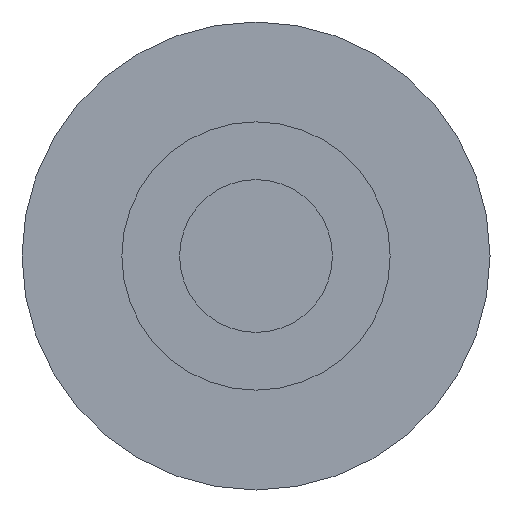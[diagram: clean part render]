
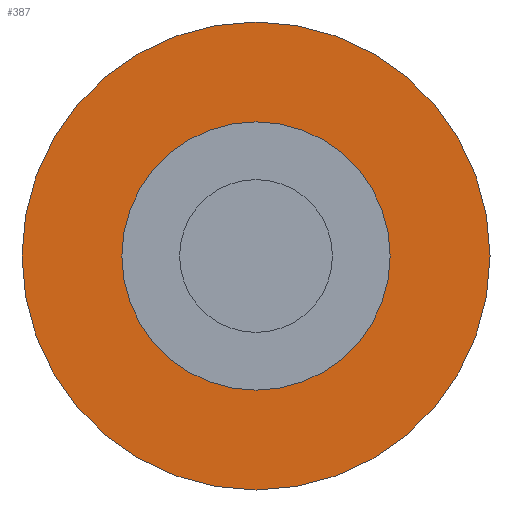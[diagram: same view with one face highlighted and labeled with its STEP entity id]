
A CAD part, front view. The second image highlights one B-rep face of the part: STEP entity #387.
In plain terms, the highlighted planar face has unit normal (0, -1, 0).
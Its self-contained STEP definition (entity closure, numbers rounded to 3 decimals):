
#1 = EDGE_LOOP ( 'NONE', ( #273, #251 ) ) ;
#2 = VERTEX_POINT ( 'NONE', #386 ) ;
#10 = DIRECTION ( 'NONE',  ( 0., -1., 0. ) ) ;
#11 = AXIS2_PLACEMENT_3D ( 'NONE', #325, #111, #27 ) ;
#23 = ORIENTED_EDGE ( 'NONE', *, *, #382, .F. ) ;
#27 = DIRECTION ( 'NONE',  ( 0., 0., 1. ) ) ;
#30 = DIRECTION ( 'NONE',  ( 0., 1., 0. ) ) ;
#46 = DIRECTION ( 'NONE',  ( 0., 0., 1. ) ) ;
#47 = AXIS2_PLACEMENT_3D ( 'NONE', #327, #30, #140 ) ;
#68 = AXIS2_PLACEMENT_3D ( 'NONE', #292, #130, #46 ) ;
#69 = DIRECTION ( 'NONE',  ( 0., 1., 0. ) ) ;
#76 = FACE_BOUND ( 'NONE', #1, .T. ) ;
#89 = EDGE_CURVE ( 'NONE', #2, #361, #204, .T. ) ;
#97 = ORIENTED_EDGE ( 'NONE', *, *, #153, .F. ) ;
#99 = CARTESIAN_POINT ( 'NONE',  ( -8.6, 0., 0. ) ) ;
#111 = DIRECTION ( 'NONE',  ( 0., 1., 0. ) ) ;
#112 = AXIS2_PLACEMENT_3D ( 'NONE', #182, #69, #121 ) ;
#117 = CARTESIAN_POINT ( 'NONE',  ( 0., 0., 15. ) ) ;
#121 = DIRECTION ( 'NONE',  ( 0., 0., 1. ) ) ;
#124 = CIRCLE ( 'NONE', #47, 15. ) ;
#130 = DIRECTION ( 'NONE',  ( 0., 1., 0. ) ) ;
#138 = FACE_OUTER_BOUND ( 'NONE', #231, .T. ) ;
#140 = DIRECTION ( 'NONE',  ( 0., 0., 1. ) ) ;
#153 = EDGE_CURVE ( 'NONE', #261, #202, #124, .T. ) ;
#182 = CARTESIAN_POINT ( 'NONE',  ( 0., 0., 0. ) ) ;
#202 = VERTEX_POINT ( 'NONE', #117 ) ;
#204 = CIRCLE ( 'NONE', #11, 8.6 ) ;
#213 = CARTESIAN_POINT ( 'NONE',  ( 0., 0., 8.6 ) ) ;
#216 = PLANE ( 'NONE',  #333 ) ;
#231 = EDGE_LOOP ( 'NONE', ( #23, #97 ) ) ;
#251 = ORIENTED_EDGE ( 'NONE', *, *, #89, .T. ) ;
#259 = DIRECTION ( 'NONE',  ( 0., 0., -1. ) ) ;
#261 = VERTEX_POINT ( 'NONE', #369 ) ;
#273 = ORIENTED_EDGE ( 'NONE', *, *, #326, .T. ) ;
#282 = CIRCLE ( 'NONE', #112, 8.6 ) ;
#292 = CARTESIAN_POINT ( 'NONE',  ( 0., 0., 0. ) ) ;
#325 = CARTESIAN_POINT ( 'NONE',  ( 0., 0., 0. ) ) ;
#326 = EDGE_CURVE ( 'NONE', #361, #2, #282, .T. ) ;
#327 = CARTESIAN_POINT ( 'NONE',  ( 0., 0., 0. ) ) ;
#333 = AXIS2_PLACEMENT_3D ( 'NONE', #99, #10, #259 ) ;
#361 = VERTEX_POINT ( 'NONE', #213 ) ;
#369 = CARTESIAN_POINT ( 'NONE',  ( 0., 0., -15. ) ) ;
#382 = EDGE_CURVE ( 'NONE', #202, #261, #390, .T. ) ;
#386 = CARTESIAN_POINT ( 'NONE',  ( 0., 0., -8.6 ) ) ;
#387 = ADVANCED_FACE ( 'NONE', ( #76, #138 ), #216, .T. ) ;
#390 = CIRCLE ( 'NONE', #68, 15. ) ;
